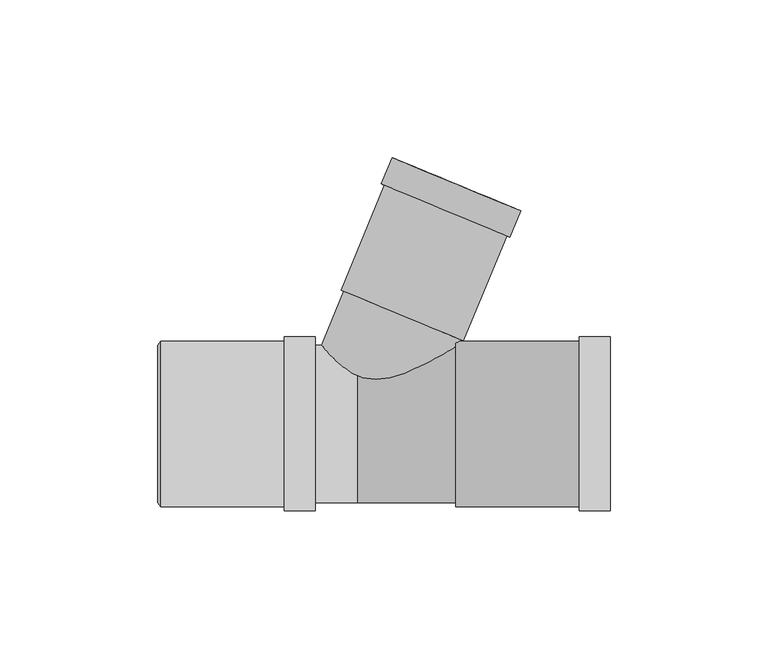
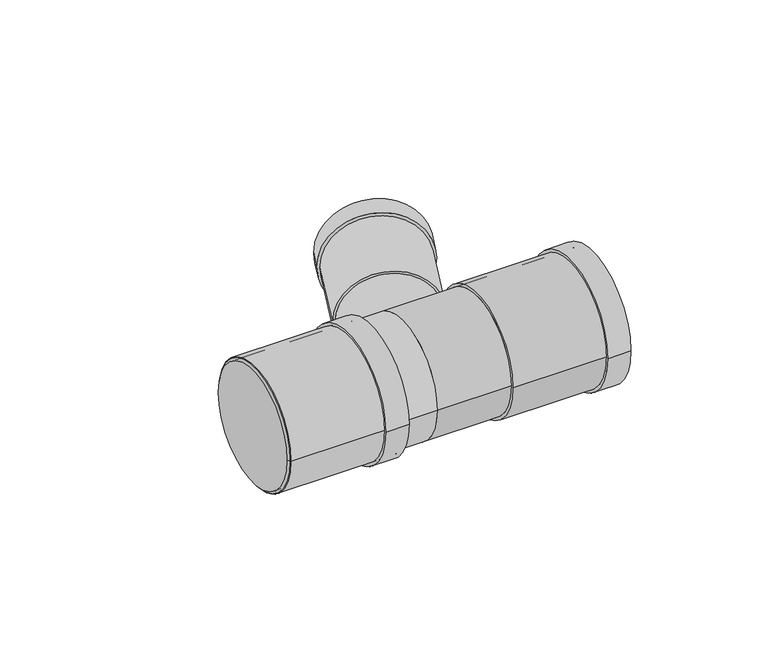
"""IFC4 building model written with IfcOpenShell, lengths in millimetres: pipe fitting geometry, Superdrain HTEA Branch : Superdrain HTEA Branch."""

from ifc_helpers import new_model, si_unit, point, frame, origin, origin_2d, place, context, project, spatial, polyline, circle_curve, trimmed, segment, composite_curve, outline, extrude, source, transform, mapped, element, save
from ifc_brep_helpers import plane_surface, revolved_surface, advanced_brep


def pipe_fitting_a345f261(model_context):
    return source(origin(), model_context, "Body", "SolidModel", [
        extrude(outline(composite_curve([segment(trimmed(circle_curve(origin_2d(), 26.25), [point((26.25, 0.0))], [point((-26.25, 0.0))], False, "CARTESIAN"), True, "CONTINUOUS"), segment(trimmed(circle_curve(origin_2d(), 26.25), [point((-26.25, 0.0))], [point((26.25, 0.0))], False, "CARTESIAN"), True, "CONTINUOUS")], self_intersect=False), holes=[composite_curve([segment(trimmed(circle_curve(origin_2d(), 25.0), [point((25.0, 0.0))], [point((-25.0, 0.0))], True, "CARTESIAN"), True, "CONTINUOUS"), segment(trimmed(circle_curve(origin_2d(), 25.0), [point((-25.0, 0.0))], [point((25.0, 0.0))], True, "CARTESIAN"), True, "CONTINUOUS")], self_intersect=False)]), frame((-62.3, 0.0, 0.0), z_axis=(1.0, 0.0, 0.0), x_axis=(0.0, 1.0, 0.0)), (0.0, 0.0, 1.0), 49.0),
        extrude(outline(composite_curve([segment(trimmed(circle_curve(origin_2d(), 27.5625), [point((27.5625, 0.0))], [point((-27.5625, 0.0))], False, "CARTESIAN"), True, "CONTINUOUS"), segment(trimmed(circle_curve(origin_2d(), 27.5625), [point((-27.5625, 0.0))], [point((27.5625, 0.0))], False, "CARTESIAN"), True, "CONTINUOUS")], self_intersect=False), holes=[composite_curve([segment(trimmed(circle_curve(origin_2d(), 25.0), [point((25.0, 0.0))], [point((-25.0, 0.0))], True, "CARTESIAN"), True, "CONTINUOUS"), segment(trimmed(circle_curve(origin_2d(), 25.0), [point((-25.0, 0.0))], [point((25.0, 0.0))], True, "CARTESIAN"), True, "CONTINUOUS")], self_intersect=False)]), frame((-23.1, 0.0, 0.0), z_axis=(1.0, 0.0, 0.0), x_axis=(0.0, 1.0, 0.0)), (0.0, 0.0, 1.0), 9.8),
        advanced_brep(
        [(-63.3, 25.0, 0.0), (-63.3, -25.0, 0.0), (-62.3, 26.25, 0.0), (-62.3, -26.25, 0.0)],
        [
            (0, 1, circle_curve(frame((-63.3, 0.0, 0.0), z_axis=(-1.0, 0.0, 0.0), x_axis=(0.0, 1.0, 0.0)), 25.0)),
            (1, 0, circle_curve(frame((-63.3, 0.0, 0.0), z_axis=(-1.0, 0.0, 0.0), x_axis=(0.0, -1.0, 0.0)), 25.0)),
            (2, 3, circle_curve(frame((-62.3, 0.0, 0.0), z_axis=(1.0, 0.0, 0.0), x_axis=(0.0, -1.0, 0.0)), 26.25)),
            (3, 2, circle_curve(frame((-62.3, 0.0, 0.0), z_axis=(1.0, 0.0, 0.0), x_axis=(0.0, 1.0, 0.0)), 26.25)),
            (3, 1),
            (0, 2),
        ],
        [
            plane_surface(frame((-63.3, 0.0, 0.0), z_axis=(-1.0, 0.0, 0.0), x_axis=(0.0, 0.0, -1.0))),
            plane_surface(frame((-62.3, 0.0, 0.0), z_axis=(1.0, 0.0, 0.0), x_axis=(0.0, 0.0, -1.0))),
            revolved_surface(polyline([(-63.3, 25.0, 0.0), (-62.3, 26.25, 0.0)]), (-83.3, 0.0, 0.0), (1.0, 0.0, 0.0)),
            revolved_surface(polyline([(-63.3, -25.0, 0.0), (-62.3, -26.25, 0.0)]), (-83.3, 0.0, 0.0), (1.0, 0.0, 0.0)),
        ],
        [
            (0, [[1, 2]]),
            (1, [[3, 4]]),
            (2, [[-4, 5, -1, 6]]),
            (3, [[-3, -6, -2, -5]]),
        ],
    ),
        extrude(outline(composite_curve([segment(trimmed(circle_curve(origin_2d(), 26.25), [point((-26.25, 0.0))], [point((26.25, 0.0))], False, "CARTESIAN"), True, "CONTINUOUS"), segment(trimmed(circle_curve(origin_2d(), 26.25), [point((26.25, 0.0))], [point((-26.25, 0.0))], False, "CARTESIAN"), True, "CONTINUOUS")], self_intersect=False), holes=[composite_curve([segment(trimmed(circle_curve(origin_2d(), 25.0), [point((25.0, 0.0))], [point((-25.0, 0.0))], True, "CARTESIAN"), True, "CONTINUOUS"), segment(trimmed(circle_curve(origin_2d(), 25.0), [point((-25.0, 0.0))], [point((25.0, 0.0))], True, "CARTESIAN"), True, "CONTINUOUS")], self_intersect=False)]), frame((31.2, 0.0, 0.0), z_axis=(1.0, 0.0, 0.0), x_axis=(0.0, 1.0, 0.0)), (0.0, 0.0, 1.0), 49.0),
        extrude(outline(composite_curve([segment(trimmed(circle_curve(origin_2d(), 27.5625), [point((27.5625, 0.0))], [point((-27.5625, 0.0))], False, "CARTESIAN"), True, "CONTINUOUS"), segment(trimmed(circle_curve(origin_2d(), 27.5625), [point((-27.5625, 0.0))], [point((27.5625, 0.0))], False, "CARTESIAN"), True, "CONTINUOUS")], self_intersect=False), holes=[composite_curve([segment(trimmed(circle_curve(origin_2d(), 25.0), [point((25.0, 0.0))], [point((-25.0, 0.0))], True, "CARTESIAN"), True, "CONTINUOUS"), segment(trimmed(circle_curve(origin_2d(), 25.0), [point((-25.0, 0.0))], [point((25.0, 0.0))], True, "CARTESIAN"), True, "CONTINUOUS")], self_intersect=False)]), frame((70.4, 0.0, 0.0), z_axis=(1.0, 0.0, 0.0), x_axis=(0.0, 1.0, 0.0)), (0.0, 0.0, 1.0), 9.8),
        extrude(outline(composite_curve([segment(trimmed(circle_curve(origin_2d(), 20.0), [point((0.0, 20.0))], [point((0.0, -20.0))], False, "CARTESIAN"), True, "CONTINUOUS"), segment(trimmed(circle_curve(origin_2d(), 20.0), [point((0.0, -20.0))], [point((0.0, 20.0))], False, "CARTESIAN"), True, "CONTINUOUS")], self_intersect=False)), frame((0.0, 0.0, 0.0), z_axis=(0.3826834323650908, 0.9238795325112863, 0.0), x_axis=(0.0, 0.0, 1.0)), (0.0, 0.0, 1.0), 37.2),
        extrude(outline(composite_curve([segment(trimmed(circle_curve(origin_2d(), 25.0), [point((25.0, 0.0))], [point((-25.0, 0.0))], False, "CARTESIAN"), True, "CONTINUOUS"), segment(trimmed(circle_curve(origin_2d(), 25.0), [point((-25.0, 0.0))], [point((25.0, 0.0))], False, "CARTESIAN"), True, "CONTINUOUS")], self_intersect=False)), frame((-62.3, 0.0, 0.0), z_axis=(1.0, 0.0, 0.0), x_axis=(0.0, 1.0, 0.0)), (0.0, 0.0, 1.0), 62.3),
        extrude(outline(composite_curve([segment(trimmed(circle_curve(origin_2d(), 25.0), [point((-25.0, 0.0))], [point((25.0, 0.0))], False, "CARTESIAN"), True, "CONTINUOUS"), segment(trimmed(circle_curve(origin_2d(), 25.0), [point((25.0, 0.0))], [point((-25.0, 0.0))], False, "CARTESIAN"), True, "CONTINUOUS")], self_intersect=False)), frame((0.0, 0.0, 0.0), z_axis=(1.0, 0.0, 0.0), x_axis=(0.0, 1.0, 0.0)), (0.0, 0.0, 1.0), 31.2),
        extrude(outline(composite_curve([segment(trimmed(circle_curve(origin_2d(), 22.05), [point((0.0, 22.05))], [point((0.0, -22.0499999))], False, "CARTESIAN"), True, "CONTINUOUS"), segment(trimmed(circle_curve(origin_2d(), 22.05), [point((0.0, -22.0499999))], [point((0.0, 22.05))], False, "CARTESIAN"), True, "CONTINUOUS")], self_intersect=False), holes=[composite_curve([segment(trimmed(circle_curve(origin_2d(), 20.0), [point((0.0, 20.0000001))], [point((0.0, -19.9999999))], True, "CARTESIAN"), True, "CONTINUOUS"), segment(trimmed(circle_curve(origin_2d(), 20.0), [point((0.0, -19.9999999))], [point((0.0, 20.0000001))], True, "CARTESIAN"), True, "CONTINUOUS")], self_intersect=False)]), frame((28.0124272, 67.6279818, 0.0), z_axis=(0.3826834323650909, 0.9238795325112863, 0.0), x_axis=(0.0, 0.0, 1.0)), (0.0, 0.0, 1.0), 9.0),
        extrude(outline(composite_curve([segment(trimmed(circle_curve(origin_2d(), 21.0), [point((0.0, 21.0))], [point((0.0, -21.0))], False, "CARTESIAN"), True, "CONTINUOUS"), segment(trimmed(circle_curve(origin_2d(), 21.0), [point((0.0, -21.0))], [point((0.0, 21.0))], False, "CARTESIAN"), True, "CONTINUOUS")], self_intersect=False), holes=[composite_curve([segment(trimmed(circle_curve(origin_2d(), 20.0), [point((0.0, 19.9999999))], [point((0.0, -20.0000001))], True, "CARTESIAN"), True, "CONTINUOUS"), segment(trimmed(circle_curve(origin_2d(), 20.0), [point((0.0, -20.0000001))], [point((0.0, 19.9999999))], True, "CARTESIAN"), True, "CONTINUOUS")], self_intersect=False)]), frame((14.2358237, 34.3683186, 0.0), z_axis=(0.38268343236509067, 0.9238795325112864, 0.0), x_axis=(0.0, 0.0, 1.0)), (0.0, 0.0, 1.0), 45.0),
    ])


if __name__ == "__main__":
    model = new_model("IFC4")
    model_context = context("Model", 3, world=origin())
    ifc_project = project(units=[si_unit("LENGTHUNIT", "METRE", prefix="MILLI")], contexts=[model_context])
    site = spatial("IfcSite", under=ifc_project)
    building = spatial("IfcBuilding", under=site)
    placement = place(None, origin())
    pipe_fitting_shape = pipe_fitting_a345f261(model_context)
    element("IfcPipeFitting", 1, ObjectType="Superdrain HTEA Branch : Superdrain HTEA Branch", at=placement, inside=building, context=model_context, shape_type="MappedRepresentation", body=[
        mapped(pipe_fitting_shape, transform((0.0, 0.0, 0.0), x_axis=(1.0, 0.0, 0.0), y_axis=(0.0, 1.0, 0.0), z_axis=(0.0, 0.0, 1.0))),
    ])
    save(model, "model.ifc")
